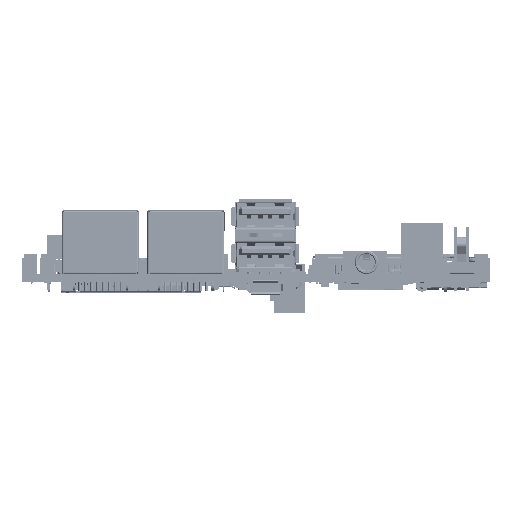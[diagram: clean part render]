
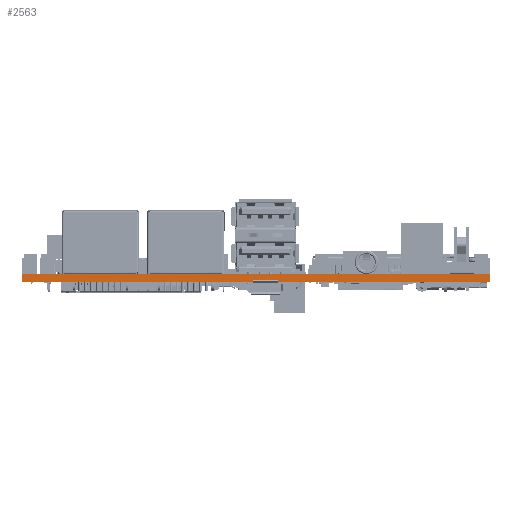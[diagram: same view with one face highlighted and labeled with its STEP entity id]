
A CAD part, front view. The second image highlights one B-rep face of the part: STEP entity #2563.
In plain terms, the highlighted planar face has unit normal (0, -1, 0).
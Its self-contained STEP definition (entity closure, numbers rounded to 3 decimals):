
#2300 = EDGE_CURVE('',#2301,#2303,#2305,.T.);
#2301 = VERTEX_POINT('',#2302);
#2302 = CARTESIAN_POINT('',(0.,0.,0.));
#2303 = VERTEX_POINT('',#2304);
#2304 = CARTESIAN_POINT('',(0.,0.,1.625));
#2305 = SURFACE_CURVE('',#2306,(#2310,#2322),.PCURVE_S1.);
#2306 = LINE('',#2307,#2308);
#2307 = CARTESIAN_POINT('',(0.,0.,0.));
#2308 = VECTOR('',#2309,1.);
#2309 = DIRECTION('',(0.,0.,1.));
#2310 = PCURVE('',#2311,#2316);
#2311 = PLANE('',#2312);
#2312 = AXIS2_PLACEMENT_3D('',#2313,#2314,#2315);
#2313 = CARTESIAN_POINT('',(0.,0.,0.));
#2314 = DIRECTION('',(-1.,0.,0.));
#2315 = DIRECTION('',(0.,1.,0.));
#2316 = DEFINITIONAL_REPRESENTATION('',(#2317),#2321);
#2317 = LINE('',#2318,#2319);
#2318 = CARTESIAN_POINT('',(0.,0.));
#2319 = VECTOR('',#2320,1.);
#2320 = DIRECTION('',(0.,-1.));
#2321 = ( GEOMETRIC_REPRESENTATION_CONTEXT(2) 
PARAMETRIC_REPRESENTATION_CONTEXT() REPRESENTATION_CONTEXT('2D SPACE',''
  ) );
#2322 = PCURVE('',#2323,#2328);
#2323 = PLANE('',#2324);
#2324 = AXIS2_PLACEMENT_3D('',#2325,#2326,#2327);
#2325 = CARTESIAN_POINT('',(100.,0.,0.));
#2326 = DIRECTION('',(0.,-1.,0.));
#2327 = DIRECTION('',(-1.,0.,0.));
#2328 = DEFINITIONAL_REPRESENTATION('',(#2329),#2333);
#2329 = LINE('',#2330,#2331);
#2330 = CARTESIAN_POINT('',(100.,0.));
#2331 = VECTOR('',#2332,1.);
#2332 = DIRECTION('',(0.,-1.));
#2333 = ( GEOMETRIC_REPRESENTATION_CONTEXT(2) 
PARAMETRIC_REPRESENTATION_CONTEXT() REPRESENTATION_CONTEXT('2D SPACE',''
  ) );
#2351 = PLANE('',#2352);
#2352 = AXIS2_PLACEMENT_3D('',#2353,#2354,#2355);
#2353 = CARTESIAN_POINT('',(0.,0.,1.625));
#2354 = DIRECTION('',(0.,0.,1.));
#2355 = DIRECTION('',(1.,0.,0.));
#2405 = PLANE('',#2406);
#2406 = AXIS2_PLACEMENT_3D('',#2407,#2408,#2409);
#2407 = CARTESIAN_POINT('',(0.,0.,0.));
#2408 = DIRECTION('',(0.,0.,1.));
#2409 = DIRECTION('',(1.,0.,0.));
#2460 = PLANE('',#2461);
#2461 = AXIS2_PLACEMENT_3D('',#2462,#2463,#2464);
#2462 = CARTESIAN_POINT('',(100.,72.,0.));
#2463 = DIRECTION('',(1.,0.,0.));
#2464 = DIRECTION('',(0.,-1.,0.));
#2498 = VERTEX_POINT('',#2499);
#2499 = CARTESIAN_POINT('',(100.,0.,1.625));
#2520 = EDGE_CURVE('',#2521,#2498,#2523,.T.);
#2521 = VERTEX_POINT('',#2522);
#2522 = CARTESIAN_POINT('',(100.,0.,0.));
#2523 = SURFACE_CURVE('',#2524,(#2528,#2535),.PCURVE_S1.);
#2524 = LINE('',#2525,#2526);
#2525 = CARTESIAN_POINT('',(100.,0.,0.));
#2526 = VECTOR('',#2527,1.);
#2527 = DIRECTION('',(0.,0.,1.));
#2528 = PCURVE('',#2460,#2529);
#2529 = DEFINITIONAL_REPRESENTATION('',(#2530),#2534);
#2530 = LINE('',#2531,#2532);
#2531 = CARTESIAN_POINT('',(72.,0.));
#2532 = VECTOR('',#2533,1.);
#2533 = DIRECTION('',(0.,-1.));
#2534 = ( GEOMETRIC_REPRESENTATION_CONTEXT(2) 
PARAMETRIC_REPRESENTATION_CONTEXT() REPRESENTATION_CONTEXT('2D SPACE',''
  ) );
#2535 = PCURVE('',#2323,#2536);
#2536 = DEFINITIONAL_REPRESENTATION('',(#2537),#2541);
#2537 = LINE('',#2538,#2539);
#2538 = CARTESIAN_POINT('',(0.,0.));
#2539 = VECTOR('',#2540,1.);
#2540 = DIRECTION('',(0.,-1.));
#2541 = ( GEOMETRIC_REPRESENTATION_CONTEXT(2) 
PARAMETRIC_REPRESENTATION_CONTEXT() REPRESENTATION_CONTEXT('2D SPACE',''
  ) );
#2563 = ADVANCED_FACE('',(#2564),#2323,.T.);
#2564 = FACE_BOUND('',#2565,.T.);
#2565 = EDGE_LOOP('',(#2566,#2567,#2588,#2589));
#2566 = ORIENTED_EDGE('',*,*,#2520,.T.);
#2567 = ORIENTED_EDGE('',*,*,#2568,.T.);
#2568 = EDGE_CURVE('',#2498,#2303,#2569,.T.);
#2569 = SURFACE_CURVE('',#2570,(#2574,#2581),.PCURVE_S1.);
#2570 = LINE('',#2571,#2572);
#2571 = CARTESIAN_POINT('',(100.,0.,1.625));
#2572 = VECTOR('',#2573,1.);
#2573 = DIRECTION('',(-1.,0.,0.));
#2574 = PCURVE('',#2323,#2575);
#2575 = DEFINITIONAL_REPRESENTATION('',(#2576),#2580);
#2576 = LINE('',#2577,#2578);
#2577 = CARTESIAN_POINT('',(0.,-1.625));
#2578 = VECTOR('',#2579,1.);
#2579 = DIRECTION('',(1.,0.));
#2580 = ( GEOMETRIC_REPRESENTATION_CONTEXT(2) 
PARAMETRIC_REPRESENTATION_CONTEXT() REPRESENTATION_CONTEXT('2D SPACE',''
  ) );
#2581 = PCURVE('',#2351,#2582);
#2582 = DEFINITIONAL_REPRESENTATION('',(#2583),#2587);
#2583 = LINE('',#2584,#2585);
#2584 = CARTESIAN_POINT('',(100.,0.));
#2585 = VECTOR('',#2586,1.);
#2586 = DIRECTION('',(-1.,0.));
#2587 = ( GEOMETRIC_REPRESENTATION_CONTEXT(2) 
PARAMETRIC_REPRESENTATION_CONTEXT() REPRESENTATION_CONTEXT('2D SPACE',''
  ) );
#2588 = ORIENTED_EDGE('',*,*,#2300,.F.);
#2589 = ORIENTED_EDGE('',*,*,#2590,.F.);
#2590 = EDGE_CURVE('',#2521,#2301,#2591,.T.);
#2591 = SURFACE_CURVE('',#2592,(#2596,#2603),.PCURVE_S1.);
#2592 = LINE('',#2593,#2594);
#2593 = CARTESIAN_POINT('',(100.,0.,0.));
#2594 = VECTOR('',#2595,1.);
#2595 = DIRECTION('',(-1.,0.,0.));
#2596 = PCURVE('',#2323,#2597);
#2597 = DEFINITIONAL_REPRESENTATION('',(#2598),#2602);
#2598 = LINE('',#2599,#2600);
#2599 = CARTESIAN_POINT('',(0.,0.));
#2600 = VECTOR('',#2601,1.);
#2601 = DIRECTION('',(1.,0.));
#2602 = ( GEOMETRIC_REPRESENTATION_CONTEXT(2) 
PARAMETRIC_REPRESENTATION_CONTEXT() REPRESENTATION_CONTEXT('2D SPACE',''
  ) );
#2603 = PCURVE('',#2405,#2604);
#2604 = DEFINITIONAL_REPRESENTATION('',(#2605),#2609);
#2605 = LINE('',#2606,#2607);
#2606 = CARTESIAN_POINT('',(100.,0.));
#2607 = VECTOR('',#2608,1.);
#2608 = DIRECTION('',(-1.,0.));
#2609 = ( GEOMETRIC_REPRESENTATION_CONTEXT(2) 
PARAMETRIC_REPRESENTATION_CONTEXT() REPRESENTATION_CONTEXT('2D SPACE',''
  ) );
